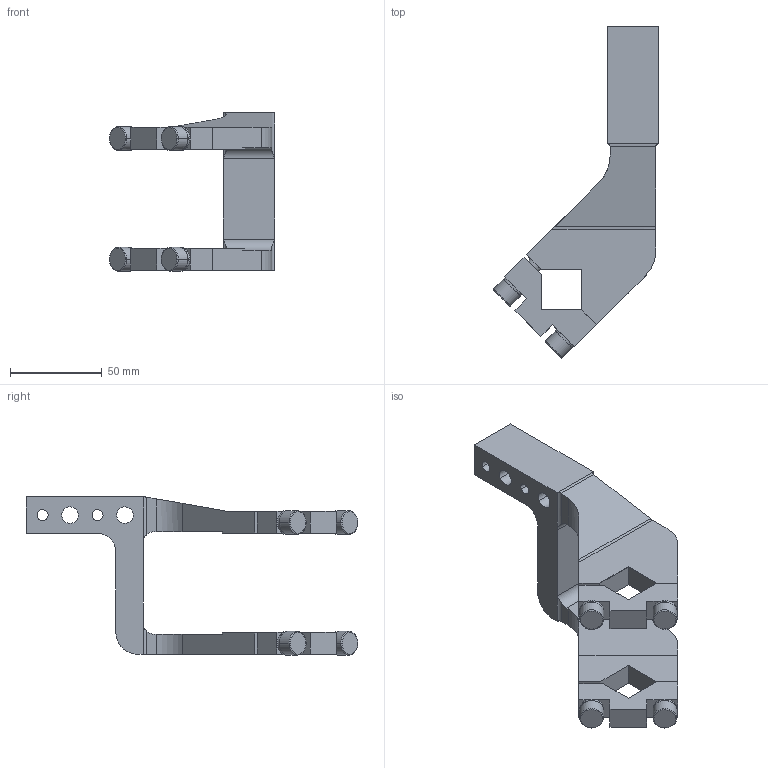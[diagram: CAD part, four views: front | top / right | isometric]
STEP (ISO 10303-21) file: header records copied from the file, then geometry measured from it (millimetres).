
FILE_DESCRIPTION(('CATIA V5 STEP Exchange'),'2;1');
FILE_NAME('E:\clampact\CLAMPACT\clampact\catalog\Clampact Arm\Arm 3D\Clampact Arm\arm_K63_25_A82_Clampact.stp','2022-12-06T08:48:42+00:00',('none'),('none'),'CATIA Version 5 Release 19 SP 6 (IN-10)','CATIA V5 STEP AP203','none');
FILE_SCHEMA(('CONFIG_CONTROL_DESIGN'));
Length unit declared in the file: millimetre
Products named in the file (1): K63_25_A82_Clampact_柯莱普
Bounding box: 90.22 x 181.22 x 86.5 mm (x, y, z)
Volume: 172261.3 mm3; surface area: 45726.9 mm2
Topology: 1 solids, 5 shells, 178 faces, 452 edges, 284 vertices
Faces by surface type: plane 90, cylinder 56, cone 20, torus 12
Entity records: 5101 total; most frequent: CARTESIAN_POINT 1116, ORIENTED_EDGE 888, DIRECTION 647, EDGE_CURVE 444, VERTEX_POINT 284, VECTOR 268, LINE 268, AXIS2_PLACEMENT_3D 259
